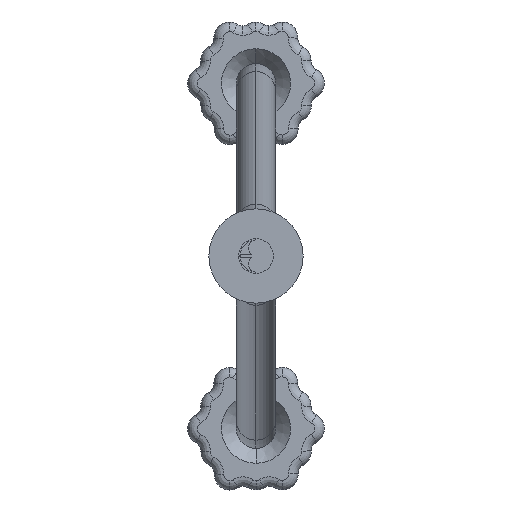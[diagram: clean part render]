
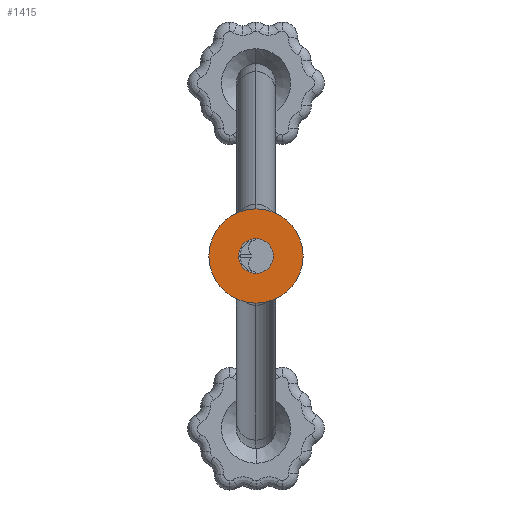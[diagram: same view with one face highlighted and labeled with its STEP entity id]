
A CAD part, left-side view. The second image highlights one B-rep face of the part: STEP entity #1415.
In plain terms, the highlighted planar face has unit normal (-1, 0, 0).
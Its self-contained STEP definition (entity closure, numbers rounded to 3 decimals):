
#143 = AXIS2_PLACEMENT_3D ( 'NONE', #2997, #765, #3826 ) ;
#214 = DIRECTION ( 'NONE',  ( -1., 0., 0. ) ) ;
#367 = EDGE_LOOP ( 'NONE', ( #4985, #2038 ) ) ;
#684 = CIRCLE ( 'NONE', #2800, 0.55 ) ;
#755 = DIRECTION ( 'NONE',  ( 0., 0., 1. ) ) ;
#765 = DIRECTION ( 'NONE',  ( -1., 0., 0. ) ) ;
#1051 = VERTEX_POINT ( 'NONE', #5608 ) ;
#1415 = ADVANCED_FACE ( 'NONE', ( #3968, #3828 ), #3659, .F. ) ;
#1465 = CARTESIAN_POINT ( 'NONE',  ( -15., 0., -0.55 ) ) ;
#1595 = CARTESIAN_POINT ( 'NONE',  ( -15., 0., 0. ) ) ;
#1627 = CARTESIAN_POINT ( 'NONE',  ( -15., 0., 0. ) ) ;
#1697 = ORIENTED_EDGE ( 'NONE', *, *, #5435, .T. ) ;
#1787 = CIRCLE ( 'NONE', #3457, 1.5 ) ;
#1796 = VERTEX_POINT ( 'NONE', #5544 ) ;
#2012 = CARTESIAN_POINT ( 'NONE',  ( -15., 0.55, 0. ) ) ;
#2038 = ORIENTED_EDGE ( 'NONE', *, *, #3521, .F. ) ;
#2137 = DIRECTION ( 'NONE',  ( -1., 0., 0. ) ) ;
#2339 = AXIS2_PLACEMENT_3D ( 'NONE', #2012, #5124, #4670 ) ;
#2457 = CARTESIAN_POINT ( 'NONE',  ( -15., 0., 0. ) ) ;
#2473 = EDGE_CURVE ( 'NONE', #4083, #1051, #4740, .T. ) ;
#2635 = CARTESIAN_POINT ( 'NONE',  ( -15., 0., 1.5 ) ) ;
#2800 = AXIS2_PLACEMENT_3D ( 'NONE', #1595, #214, #5590 ) ;
#2892 = DIRECTION ( 'NONE',  ( 0., 0., 1. ) ) ;
#2997 = CARTESIAN_POINT ( 'NONE',  ( -15., 0., 0. ) ) ;
#3388 = DIRECTION ( 'NONE',  ( -1., 0., 0. ) ) ;
#3457 = AXIS2_PLACEMENT_3D ( 'NONE', #2457, #3388, #2892 ) ;
#3521 = EDGE_CURVE ( 'NONE', #5318, #1796, #4595, .T. ) ;
#3659 = PLANE ( 'NONE',  #2339 ) ;
#3826 = DIRECTION ( 'NONE',  ( 0., 0., 1. ) ) ;
#3828 = FACE_OUTER_BOUND ( 'NONE', #4089, .T. ) ;
#3878 = EDGE_CURVE ( 'NONE', #1796, #5318, #684, .T. ) ;
#3930 = AXIS2_PLACEMENT_3D ( 'NONE', #1627, #2137, #755 ) ;
#3968 = FACE_BOUND ( 'NONE', #367, .T. ) ;
#4083 = VERTEX_POINT ( 'NONE', #2635 ) ;
#4089 = EDGE_LOOP ( 'NONE', ( #5751, #1697 ) ) ;
#4595 = CIRCLE ( 'NONE', #3930, 0.55 ) ;
#4670 = DIRECTION ( 'NONE',  ( 0., 0., -1. ) ) ;
#4740 = CIRCLE ( 'NONE', #143, 1.5 ) ;
#4985 = ORIENTED_EDGE ( 'NONE', *, *, #3878, .F. ) ;
#5124 = DIRECTION ( 'NONE',  ( 1., 0., 0. ) ) ;
#5318 = VERTEX_POINT ( 'NONE', #1465 ) ;
#5435 = EDGE_CURVE ( 'NONE', #1051, #4083, #1787, .T. ) ;
#5544 = CARTESIAN_POINT ( 'NONE',  ( -15., 0., 0.55 ) ) ;
#5590 = DIRECTION ( 'NONE',  ( 0., 0., 1. ) ) ;
#5608 = CARTESIAN_POINT ( 'NONE',  ( -15., 0., -1.5 ) ) ;
#5751 = ORIENTED_EDGE ( 'NONE', *, *, #2473, .T. ) ;
